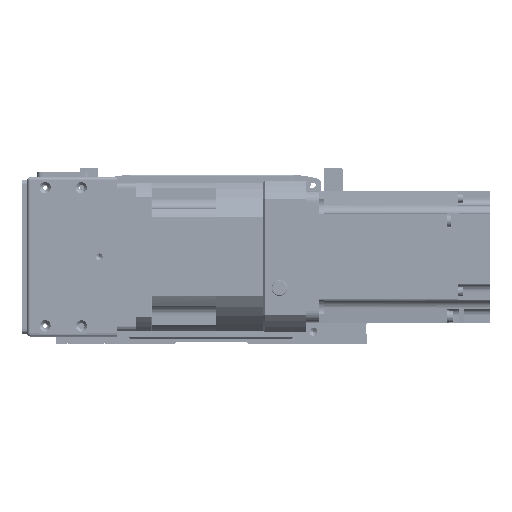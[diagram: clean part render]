
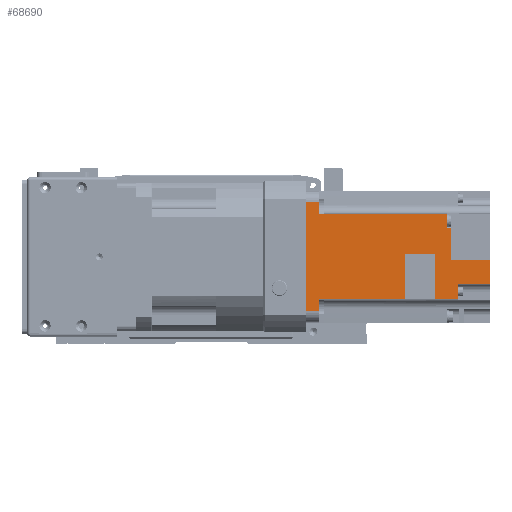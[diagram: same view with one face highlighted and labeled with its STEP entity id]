
A CAD part, front view. The second image highlights one B-rep face of the part: STEP entity #68690.
In plain terms, the highlighted planar face has unit normal (0, -1, 0.003).
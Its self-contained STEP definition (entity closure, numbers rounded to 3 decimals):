
#4379=PLANE('',#75075);
#8962=FACE_OUTER_BOUND('',#13015,.T.);
#13015=EDGE_LOOP('',(#60177,#60178,#60179,#60180,#60181,#60182,#60183,#60184,
#60185,#60186,#60187,#60188,#60189,#60190,#60191,#60192,#60193,#60194,#60195,
#60196,#60197,#60198,#60199,#60200,#60201,#60202));
#19308=LINE('',#113346,#25732);
#19309=LINE('',#113349,#25733);
#19314=LINE('',#113391,#25738);
#19318=LINE('',#113420,#25742);
#19321=LINE('',#113431,#25745);
#19322=LINE('',#113435,#25746);
#19323=LINE('',#113437,#25747);
#19324=LINE('',#113438,#25748);
#19325=LINE('',#113440,#25749);
#19326=LINE('',#113442,#25750);
#19327=LINE('',#113444,#25751);
#19328=LINE('',#113445,#25752);
#19329=LINE('',#113447,#25753);
#19330=LINE('',#113449,#25754);
#19331=LINE('',#113451,#25755);
#19332=LINE('',#113453,#25756);
#19333=LINE('',#113455,#25757);
#19334=LINE('',#113457,#25758);
#19335=LINE('',#113459,#25759);
#19336=LINE('',#113461,#25760);
#19337=LINE('',#113463,#25761);
#19338=LINE('',#113465,#25762);
#19339=LINE('',#113467,#25763);
#19340=LINE('',#113469,#25764);
#19341=LINE('',#113471,#25765);
#19342=LINE('',#113472,#25766);
#25732=VECTOR('',#91081,3.);
#25733=VECTOR('',#91084,0.009);
#25738=VECTOR('',#91123,0.009);
#25742=VECTOR('',#91153,7.342);
#25745=VECTOR('',#91164,8.);
#25746=VECTOR('',#91167,2.548);
#25747=VECTOR('',#91168,2.682);
#25748=VECTOR('',#91169,75.);
#25749=VECTOR('',#91170,66.);
#25750=VECTOR('',#91171,8.);
#25751=VECTOR('',#91172,7.342);
#25752=VECTOR('',#91173,3.);
#25753=VECTOR('',#91174,49.1);
#25754=VECTOR('',#91175,27.466);
#25755=VECTOR('',#91176,18.55);
#25756=VECTOR('',#91177,27.466);
#25757=VECTOR('',#91178,13.85);
#25758=VECTOR('',#91179,8.966);
#25759=VECTOR('',#91180,19.5);
#25760=VECTOR('',#91181,14.5);
#25761=VECTOR('',#91182,23.5);
#25762=VECTOR('',#91183,19.4);
#25763=VECTOR('',#91184,0.5);
#25764=VECTOR('',#91185,0.001);
#25765=VECTOR('',#91186,2.);
#25766=VECTOR('',#91187,3.238);
#34734=VERTEX_POINT('',#113340);
#34736=VERTEX_POINT('',#113344);
#34737=VERTEX_POINT('',#113348);
#34756=VERTEX_POINT('',#113388);
#34757=VERTEX_POINT('',#113390);
#34768=VERTEX_POINT('',#113417);
#34773=VERTEX_POINT('',#113429);
#34774=VERTEX_POINT('',#113433);
#34775=VERTEX_POINT('',#113434);
#34776=VERTEX_POINT('',#113436);
#34777=VERTEX_POINT('',#113439);
#34778=VERTEX_POINT('',#113441);
#34779=VERTEX_POINT('',#113443);
#34780=VERTEX_POINT('',#113446);
#34781=VERTEX_POINT('',#113448);
#34782=VERTEX_POINT('',#113450);
#34783=VERTEX_POINT('',#113452);
#34784=VERTEX_POINT('',#113454);
#34785=VERTEX_POINT('',#113456);
#34786=VERTEX_POINT('',#113458);
#34787=VERTEX_POINT('',#113460);
#34788=VERTEX_POINT('',#113462);
#34789=VERTEX_POINT('',#113464);
#34790=VERTEX_POINT('',#113466);
#34791=VERTEX_POINT('',#113468);
#34792=VERTEX_POINT('',#113470);
#43499=EDGE_CURVE('',#34736,#34734,#19308,.T.);
#43500=EDGE_CURVE('',#34734,#34737,#19309,.T.);
#43520=EDGE_CURVE('',#34756,#34757,#19314,.T.);
#43534=EDGE_CURVE('',#34736,#34768,#19318,.T.);
#43540=EDGE_CURVE('',#34768,#34773,#19321,.T.);
#43541=EDGE_CURVE('',#34774,#34775,#19322,.T.);
#43542=EDGE_CURVE('',#34776,#34774,#19323,.T.);
#43543=EDGE_CURVE('',#34776,#34737,#19324,.T.);
#43544=EDGE_CURVE('',#34773,#34777,#19325,.T.);
#43545=EDGE_CURVE('',#34777,#34778,#19326,.T.);
#43546=EDGE_CURVE('',#34778,#34779,#19327,.T.);
#43547=EDGE_CURVE('',#34779,#34757,#19328,.T.);
#43548=EDGE_CURVE('',#34780,#34756,#19329,.T.);
#43549=EDGE_CURVE('',#34780,#34781,#19330,.T.);
#43550=EDGE_CURVE('',#34781,#34782,#19331,.T.);
#43551=EDGE_CURVE('',#34783,#34782,#19332,.T.);
#43552=EDGE_CURVE('',#34783,#34784,#19333,.T.);
#43553=EDGE_CURVE('',#34785,#34784,#19334,.T.);
#43554=EDGE_CURVE('',#34786,#34785,#19335,.T.);
#43555=EDGE_CURVE('',#34786,#34787,#19336,.T.);
#43556=EDGE_CURVE('',#34787,#34788,#19337,.T.);
#43557=EDGE_CURVE('',#34788,#34789,#19338,.T.);
#43558=EDGE_CURVE('',#34789,#34790,#19339,.T.);
#43559=EDGE_CURVE('',#34791,#34790,#19340,.T.);
#43560=EDGE_CURVE('',#34791,#34792,#19341,.T.);
#43561=EDGE_CURVE('',#34775,#34792,#19342,.T.);
#60177=ORIENTED_EDGE('',*,*,#43541,.F.);
#60178=ORIENTED_EDGE('',*,*,#43542,.F.);
#60179=ORIENTED_EDGE('',*,*,#43543,.T.);
#60180=ORIENTED_EDGE('',*,*,#43500,.F.);
#60181=ORIENTED_EDGE('',*,*,#43499,.F.);
#60182=ORIENTED_EDGE('',*,*,#43534,.T.);
#60183=ORIENTED_EDGE('',*,*,#43540,.T.);
#60184=ORIENTED_EDGE('',*,*,#43544,.T.);
#60185=ORIENTED_EDGE('',*,*,#43545,.T.);
#60186=ORIENTED_EDGE('',*,*,#43546,.T.);
#60187=ORIENTED_EDGE('',*,*,#43547,.T.);
#60188=ORIENTED_EDGE('',*,*,#43520,.F.);
#60189=ORIENTED_EDGE('',*,*,#43548,.F.);
#60190=ORIENTED_EDGE('',*,*,#43549,.T.);
#60191=ORIENTED_EDGE('',*,*,#43550,.T.);
#60192=ORIENTED_EDGE('',*,*,#43551,.F.);
#60193=ORIENTED_EDGE('',*,*,#43552,.T.);
#60194=ORIENTED_EDGE('',*,*,#43553,.F.);
#60195=ORIENTED_EDGE('',*,*,#43554,.F.);
#60196=ORIENTED_EDGE('',*,*,#43555,.T.);
#60197=ORIENTED_EDGE('',*,*,#43556,.T.);
#60198=ORIENTED_EDGE('',*,*,#43557,.T.);
#60199=ORIENTED_EDGE('',*,*,#43558,.T.);
#60200=ORIENTED_EDGE('',*,*,#43559,.F.);
#60201=ORIENTED_EDGE('',*,*,#43560,.T.);
#60202=ORIENTED_EDGE('',*,*,#43561,.F.);
#68690=ADVANCED_FACE('',(#8962),#4379,.F.);
#75075=AXIS2_PLACEMENT_3D('',#113432,#91165,#91166);
#91081=DIRECTION('',(0.,0.,-1.));
#91084=DIRECTION('',(1.,0.,0.));
#91123=DIRECTION('',(1.,0.,0.));
#91153=DIRECTION('',(1.,0.,0.));
#91164=DIRECTION('',(0.,0.,1.));
#91165=DIRECTION('center_axis',(0.,1.,0.));
#91166=DIRECTION('ref_axis',(1.,0.,0.));
#91167=DIRECTION('',(-1.,0.,0.));
#91168=DIRECTION('',(-1.,0.,0.));
#91169=DIRECTION('',(0.,0.,1.));
#91170=DIRECTION('',(-1.,0.,0.));
#91171=DIRECTION('',(0.,0.,-1.));
#91172=DIRECTION('',(1.,0.,0.));
#91173=DIRECTION('',(0.,0.,-1.));
#91174=DIRECTION('',(0.,0.,1.));
#91175=DIRECTION('',(1.,0.,0.));
#91176=DIRECTION('',(0.,0.,-1.));
#91177=DIRECTION('',(1.,0.,0.));
#91178=DIRECTION('',(0.,0.,-1.));
#91179=DIRECTION('',(-1.,0.,0.));
#91180=DIRECTION('',(0.,0.,1.));
#91181=DIRECTION('',(1.,0.,0.));
#91182=DIRECTION('',(0.,0.,1.));
#91183=DIRECTION('',(1.,0.,0.));
#91184=DIRECTION('',(0.,0.,1.));
#91185=DIRECTION('',(1.,0.,0.));
#91186=DIRECTION('',(0.,0.,1.));
#91187=DIRECTION('',(-1.,0.,0.));
#113340=CARTESIAN_POINT('',(25.658,-40.,-11.));
#113344=CARTESIAN_POINT('',(25.658,-40.,-8.));
#113346=CARTESIAN_POINT('',(25.658,-40.,-8.));
#113348=CARTESIAN_POINT('',(25.666,-40.,-11.));
#113349=CARTESIAN_POINT('',(25.658,-40.,-11.));
#113388=CARTESIAN_POINT('',(-25.666,-40.,-11.));
#113390=CARTESIAN_POINT('',(-25.658,-40.,-11.));
#113391=CARTESIAN_POINT('',(-25.666,-40.,-11.));
#113417=CARTESIAN_POINT('',(33.,-40.,-8.));
#113420=CARTESIAN_POINT('',(25.658,-40.,-8.));
#113429=CARTESIAN_POINT('',(33.,-40.,0.));
#113431=CARTESIAN_POINT('',(33.,-40.,-8.));
#113432=CARTESIAN_POINT('Origin',(0.,-40.,-5.5));
#113433=CARTESIAN_POINT('',(22.985,-40.,-86.));
#113434=CARTESIAN_POINT('',(20.437,-40.,-86.));
#113435=CARTESIAN_POINT('',(22.985,-40.,-86.));
#113436=CARTESIAN_POINT('',(25.666,-40.,-86.));
#113437=CARTESIAN_POINT('',(25.666,-40.,-86.));
#113438=CARTESIAN_POINT('',(25.666,-40.,-86.));
#113439=CARTESIAN_POINT('',(-33.,-40.,0.));
#113440=CARTESIAN_POINT('',(33.,-40.,0.));
#113441=CARTESIAN_POINT('',(-33.,-40.,-8.));
#113442=CARTESIAN_POINT('',(-33.,-40.,0.));
#113443=CARTESIAN_POINT('',(-25.658,-40.,-8.));
#113444=CARTESIAN_POINT('',(-33.,-40.,-8.));
#113445=CARTESIAN_POINT('',(-25.658,-40.,-8.));
#113446=CARTESIAN_POINT('',(-25.666,-40.,-60.1));
#113447=CARTESIAN_POINT('',(-25.666,-40.,-60.1));
#113448=CARTESIAN_POINT('',(1.8,-40.,-60.1));
#113449=CARTESIAN_POINT('',(-25.666,-40.,-60.1));
#113450=CARTESIAN_POINT('',(1.8,-40.,-78.65));
#113451=CARTESIAN_POINT('',(1.8,-40.,-60.1));
#113452=CARTESIAN_POINT('',(-25.666,-40.,-78.65));
#113453=CARTESIAN_POINT('',(-25.666,-40.,-78.65));
#113454=CARTESIAN_POINT('',(-25.666,-40.,-92.5));
#113455=CARTESIAN_POINT('',(-25.666,-40.,-78.65));
#113456=CARTESIAN_POINT('',(-16.7,-40.,-92.5));
#113457=CARTESIAN_POINT('',(-16.7,-40.,-92.5));
#113458=CARTESIAN_POINT('',(-16.7,-40.,-112.));
#113459=CARTESIAN_POINT('',(-16.7,-40.,-112.));
#113460=CARTESIAN_POINT('',(-2.2,-40.,-112.));
#113461=CARTESIAN_POINT('',(-16.7,-40.,-112.));
#113462=CARTESIAN_POINT('',(-2.2,-40.,-88.5));
#113463=CARTESIAN_POINT('',(-2.2,-40.,-112.));
#113464=CARTESIAN_POINT('',(17.2,-40.,-88.5));
#113465=CARTESIAN_POINT('',(-2.2,-40.,-88.5));
#113466=CARTESIAN_POINT('',(17.2,-40.,-88.));
#113467=CARTESIAN_POINT('',(17.2,-40.,-88.5));
#113468=CARTESIAN_POINT('',(17.199,-40.,-88.));
#113469=CARTESIAN_POINT('',(17.199,-40.,-88.));
#113470=CARTESIAN_POINT('',(17.199,-40.,-86.));
#113471=CARTESIAN_POINT('',(17.199,-40.,-88.));
#113472=CARTESIAN_POINT('',(20.437,-40.,-86.));
